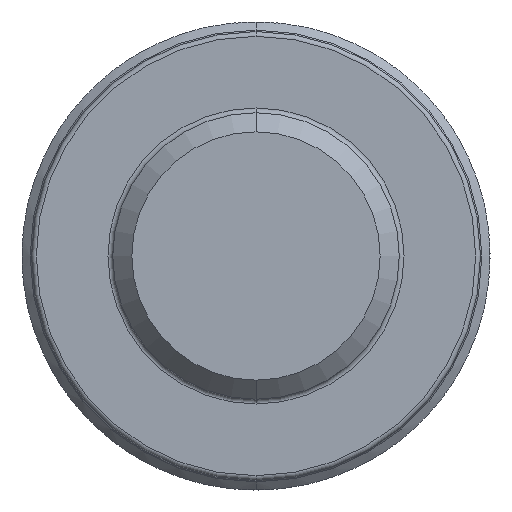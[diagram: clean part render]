
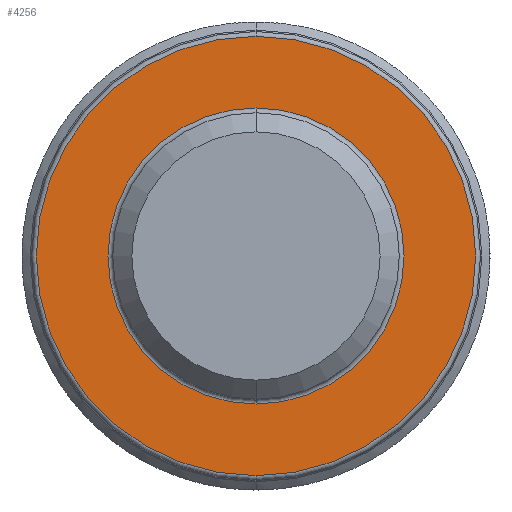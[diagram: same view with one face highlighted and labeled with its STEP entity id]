
A CAD part, front view. The second image highlights one B-rep face of the part: STEP entity #4256.
In plain terms, the highlighted planar face has unit normal (0, -1, 0).
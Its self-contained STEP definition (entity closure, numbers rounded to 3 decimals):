
#167 = CARTESIAN_POINT ( 'NONE',  ( 0., -6., 0. ) ) ;
#298 = ORIENTED_EDGE ( 'NONE', *, *, #2773, .T. ) ;
#415 = CIRCLE ( 'NONE', #8249, 3.1 ) ;
#465 = DIRECTION ( 'NONE',  ( 0., 0., -1. ) ) ;
#936 = VERTEX_POINT ( 'NONE', #2755 ) ;
#949 = DIRECTION ( 'NONE',  ( 0., -1., 0. ) ) ;
#980 = DIRECTION ( 'NONE',  ( 0., -1., 0. ) ) ;
#1460 = ORIENTED_EDGE ( 'NONE', *, *, #5232, .T. ) ;
#1502 = PLANE ( 'NONE',  #3099 ) ;
#1579 = CARTESIAN_POINT ( 'NONE',  ( 3., -6., 0. ) ) ;
#1801 = VERTEX_POINT ( 'NONE', #6610 ) ;
#1802 = CIRCLE ( 'NONE', #8291, 4.6 ) ;
#1818 = CIRCLE ( 'NONE', #3587, 4.6 ) ;
#2220 = FACE_BOUND ( 'NONE', #5482, .T. ) ;
#2583 = EDGE_CURVE ( 'NONE', #6373, #1801, #6331, .T. ) ;
#2755 = CARTESIAN_POINT ( 'NONE',  ( 0., -6., -4.6 ) ) ;
#2773 = EDGE_CURVE ( 'NONE', #1801, #6373, #415, .T. ) ;
#2977 = CARTESIAN_POINT ( 'NONE',  ( 0., -6., 4.6 ) ) ;
#3099 = AXIS2_PLACEMENT_3D ( 'NONE', #1579, #949, #7932 ) ;
#3587 = AXIS2_PLACEMENT_3D ( 'NONE', #7523, #5431, #4847 ) ;
#4211 = DIRECTION ( 'NONE',  ( 0., 1., 0. ) ) ;
#4256 = ADVANCED_FACE ( 'NONE', ( #2220, #5376 ), #1502, .T. ) ;
#4751 = CARTESIAN_POINT ( 'NONE',  ( 0., -6., 0. ) ) ;
#4847 = DIRECTION ( 'NONE',  ( 0., 0., -1. ) ) ;
#5009 = CARTESIAN_POINT ( 'NONE',  ( 0., -6., 0. ) ) ;
#5232 = EDGE_CURVE ( 'NONE', #6238, #936, #1802, .T. ) ;
#5376 = FACE_OUTER_BOUND ( 'NONE', #6291, .T. ) ;
#5431 = DIRECTION ( 'NONE',  ( 0., -1., 0. ) ) ;
#5482 = EDGE_LOOP ( 'NONE', ( #298, #5830 ) ) ;
#5830 = ORIENTED_EDGE ( 'NONE', *, *, #2583, .T. ) ;
#5922 = ORIENTED_EDGE ( 'NONE', *, *, #7453, .T. ) ;
#6238 = VERTEX_POINT ( 'NONE', #2977 ) ;
#6291 = EDGE_LOOP ( 'NONE', ( #5922, #1460 ) ) ;
#6331 = CIRCLE ( 'NONE', #6748, 3.1 ) ;
#6373 = VERTEX_POINT ( 'NONE', #7489 ) ;
#6610 = CARTESIAN_POINT ( 'NONE',  ( 0., -6., -3.1 ) ) ;
#6613 = DIRECTION ( 'NONE',  ( 0., 1., 0. ) ) ;
#6748 = AXIS2_PLACEMENT_3D ( 'NONE', #5009, #4211, #465 ) ;
#7331 = DIRECTION ( 'NONE',  ( 0., 0., -1. ) ) ;
#7453 = EDGE_CURVE ( 'NONE', #936, #6238, #1818, .T. ) ;
#7489 = CARTESIAN_POINT ( 'NONE',  ( 0., -6., 3.1 ) ) ;
#7523 = CARTESIAN_POINT ( 'NONE',  ( 0., -6., 0. ) ) ;
#7896 = DIRECTION ( 'NONE',  ( 0., 0., -1. ) ) ;
#7932 = DIRECTION ( 'NONE',  ( 0., 0., -1. ) ) ;
#8249 = AXIS2_PLACEMENT_3D ( 'NONE', #167, #6613, #7896 ) ;
#8291 = AXIS2_PLACEMENT_3D ( 'NONE', #4751, #980, #7331 ) ;
